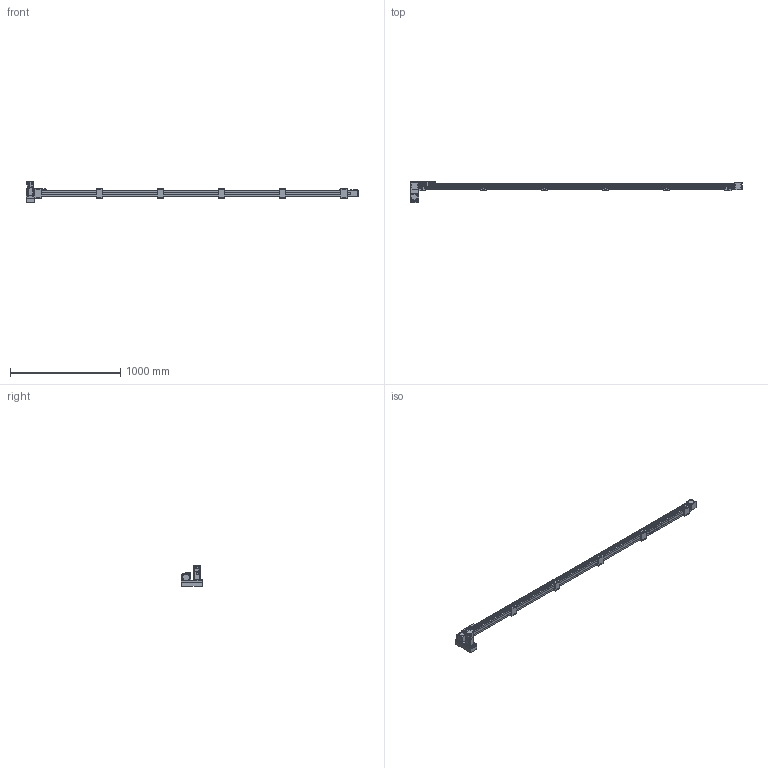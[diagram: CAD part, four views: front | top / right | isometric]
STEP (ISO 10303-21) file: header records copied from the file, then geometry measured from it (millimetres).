
FILE_DESCRIPTION(/* description */ ('STEP AP214'),/* implementation_level */ '2;1');
FILE_NAME(/* name */ 'SK60-P13-S2700-LD-T40-C1-N(0)',/* time_stamp */ '2023-04-06T04:40:07+02:00',/* author */ ('License CC BY-ND 4.0'),/* organization */ ('CADENAS'),/* preprocessor_version */ 'ST-DEVELOPER v19.3',/* originating_system */ 'PARTsolutions',/* authorisation */ ' ');
FILE_SCHEMA (('AUTOMOTIVE_DESIGN {1 0 10303 214 3 1 1}'));
Length unit declared in the file: millimetre
Products named in the file (10): SK60-P13-S2700-LD-T40-C1-N(0); PSC140-sensor; SK60-S450_seat; SK60-S450-BL-C1_slider; SK60_body3; SK60_body6; SK60-BL_body2; T40-p1; SK60-LD_fb; SK60-S2700-LD-C1_body
Assembly tree (20 placements, depth 2):
  SK60-P13-S2700-LD-T40-C1-N(0)
    PSC140-sensor  x3
    SK60-S450_seat  x6
    SK60-S450-BL-C1_slider
    SK60_body3  x3
    SK60_body6  x2
    SK60-BL_body2  x2
    T40-p1
    SK60-LD_fb
    SK60-S2700-LD-C1_body
Bounding box: 3005.5 x 199 x 189.7 mm (x, y, z)
Volume: 11416124.7 mm3; surface area: 1343947.4 mm2
Topology: 20 solids, 20 shells, 986 faces, 2440 edges, 1605 vertices
Faces by surface type: plane 620, cylinder 326, cone 38, torus 2
Full cylindrical faces by diameter (mm): 2.8 x3, 3.3 x4, 4 x2, 4.5 x30, 4.6 x3, 4.917 x32, 5 x6, 5.478 x4, 5.5 x35, 6.5 x12, 7 x2, 8 x4, 8.5 x4, 9.988 x4, 10 x24, 14 x1, 47 x3, 50 x2
Entity records: 18687 total; most frequent: DIRECTION 3192, CARTESIAN_POINT 3154, ORIENTED_EDGE 2940, EDGE_CURVE 1470, AXIS2_PLACEMENT_3D 1072, LINE 1048, VECTOR 1048, VERTEX_POINT 1034
